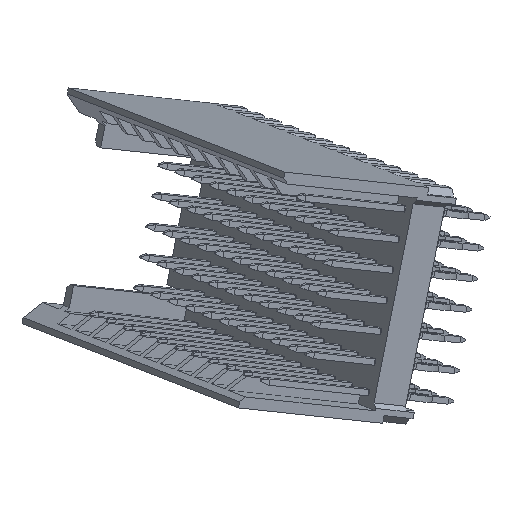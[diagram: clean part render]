
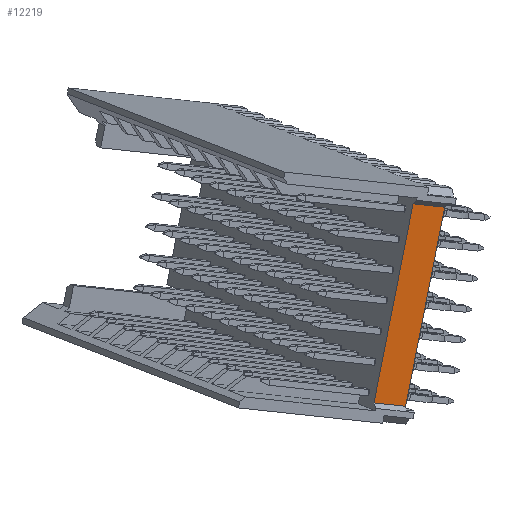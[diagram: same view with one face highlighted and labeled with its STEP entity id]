
A CAD part, left-side view. The second image highlights one B-rep face of the part: STEP entity #12219.
In plain terms, the highlighted planar face has unit normal (-0.813, -0.543, -0.211) as drawn and (-1, 0, 0) by its records, which use the part's own axes.
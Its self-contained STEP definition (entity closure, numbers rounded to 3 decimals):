
#4 = LINE ( 'NONE', #5, #15539 ) ;
#5 = CARTESIAN_POINT ( 'NONE',  ( 247.44, 194.032, -7.7 ) ) ;
#6 = DIRECTION ( 'NONE',  ( 0., 0., -1. ) ) ;
#2100 = LINE ( 'NONE', #2102, #16176 ) ;
#2102 = CARTESIAN_POINT ( 'NONE',  ( 247.44, 196.482, -14.2 ) ) ;
#2103 = DIRECTION ( 'NONE',  ( 0., 0., -1. ) ) ;
#2746 = CARTESIAN_POINT ( 'NONE',  ( 247.44, 196.482, -14.2 ) ) ;
#2816 = CARTESIAN_POINT ( 'NONE',  ( 247.44, 194.032, -14.2 ) ) ;
#2908 = CARTESIAN_POINT ( 'NONE',  ( 247.44, 196.482, -1.2 ) ) ;
#2909 = CARTESIAN_POINT ( 'NONE',  ( 247.44, 194.032, -1.2 ) ) ;
#5215 = AXIS2_PLACEMENT_3D ( 'NONE', #6527, #6533, #6534 ) ;
#6525 = PLANE ( 'NONE',  #5215 ) ;
#6527 = CARTESIAN_POINT ( 'NONE',  ( 247.44, 194.032, -14.2 ) ) ;
#6531 = FACE_OUTER_BOUND ( 'NONE', #7815, .T. ) ;
#6533 = DIRECTION ( 'NONE',  ( 1., 0., 0. ) ) ;
#6534 = DIRECTION ( 'NONE',  ( 0., 1., 0. ) ) ;
#7815 = EDGE_LOOP ( 'NONE', ( #11050, #11051, #11052, #11053 ) ) ;
#8549 = EDGE_CURVE ( 'NONE', #10552, #10482, #14992, .T. ) ;
#8657 = EDGE_CURVE ( 'NONE', #10644, #10645, #15315, .T. ) ;
#8679 = EDGE_CURVE ( 'NONE', #10645, #10552, #4, .T. ) ;
#9951 = EDGE_CURVE ( 'NONE', #10644, #10482, #2100, .T. ) ;
#10482 = VERTEX_POINT ( 'NONE', #2746 ) ;
#10552 = VERTEX_POINT ( 'NONE', #2816 ) ;
#10644 = VERTEX_POINT ( 'NONE', #2908 ) ;
#10645 = VERTEX_POINT ( 'NONE', #2909 ) ;
#11050 = ORIENTED_EDGE ( 'NONE', *, *, #9951, .T. ) ;
#11051 = ORIENTED_EDGE ( 'NONE', *, *, #8549, .F. ) ;
#11052 = ORIENTED_EDGE ( 'NONE', *, *, #8679, .F. ) ;
#11053 = ORIENTED_EDGE ( 'NONE', *, *, #8657, .F. ) ;
#12219 = ADVANCED_FACE ( 'NONE', ( #6531 ), #6525, .F. ) ;
#14992 = LINE ( 'NONE', #14993, #15400 ) ;
#14993 = CARTESIAN_POINT ( 'NONE',  ( 247.44, 195.257, -14.2 ) ) ;
#14994 = DIRECTION ( 'NONE',  ( 0., 1., 0. ) ) ;
#15315 = LINE ( 'NONE', #15317, #15519 ) ;
#15317 = CARTESIAN_POINT ( 'NONE',  ( 247.44, 195.257, -1.2 ) ) ;
#15318 = DIRECTION ( 'NONE',  ( 0., -1., 0. ) ) ;
#15400 = VECTOR ( 'NONE', #14994, 1000. ) ;
#15519 = VECTOR ( 'NONE', #15318, 1000. ) ;
#15539 = VECTOR ( 'NONE', #6, 1000. ) ;
#16176 = VECTOR ( 'NONE', #2103, 1000. ) ;
